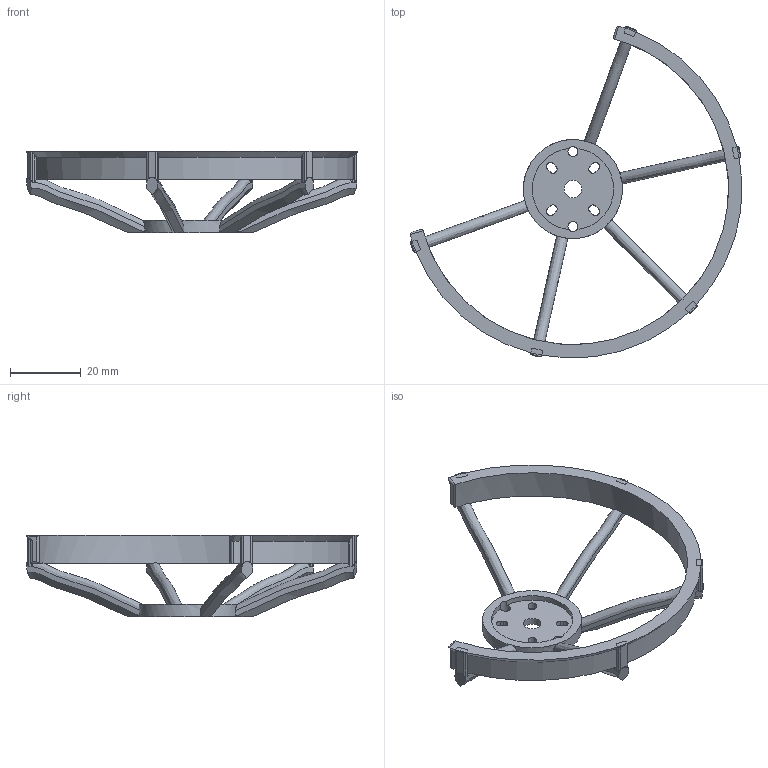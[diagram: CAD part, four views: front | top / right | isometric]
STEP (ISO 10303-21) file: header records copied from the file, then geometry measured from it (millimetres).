
FILE_DESCRIPTION(('Open CASCADE Model'),'2;1');
FILE_NAME('Open CASCADE Shape Model','2026-10-11T20:53:53',('Author'),( 'Open CASCADE'),'Open CASCADE STEP processor 7.8','Open CASCADE 7.8' ,'Unknown');
FILE_SCHEMA(('AUTOMOTIVE_DESIGN { 1 0 10303 214 1 1 1 1 }'));
Length unit declared in the file: millimetre
Products named in the file (1): Open CASCADE STEP translator 7.8 3
Bounding box: 93.83 x 93.83 x 23.1 mm (x, y, z)
Volume: 7605.8 mm3; surface area: 8475.2 mm2
Topology: 1 solids, 1 shells, 173 faces, 531 edges, 350 vertices
Faces by surface type: plane 84, cylinder 55, bspline 28, cone 6
Full cylindrical faces by diameter (mm): 2.8 x2, 5 x1
Entity records: 33674 total; most frequent: CARTESIAN_POINT 24470, DIRECTION 1350, ORIENTED_EDGE 1060, PCURVE 1060, DEFINITIONAL_REPRESENTATION 1060, LINE 671, VECTOR 671, B_SPLINE_CURVE_WITH_KNOTS 556
